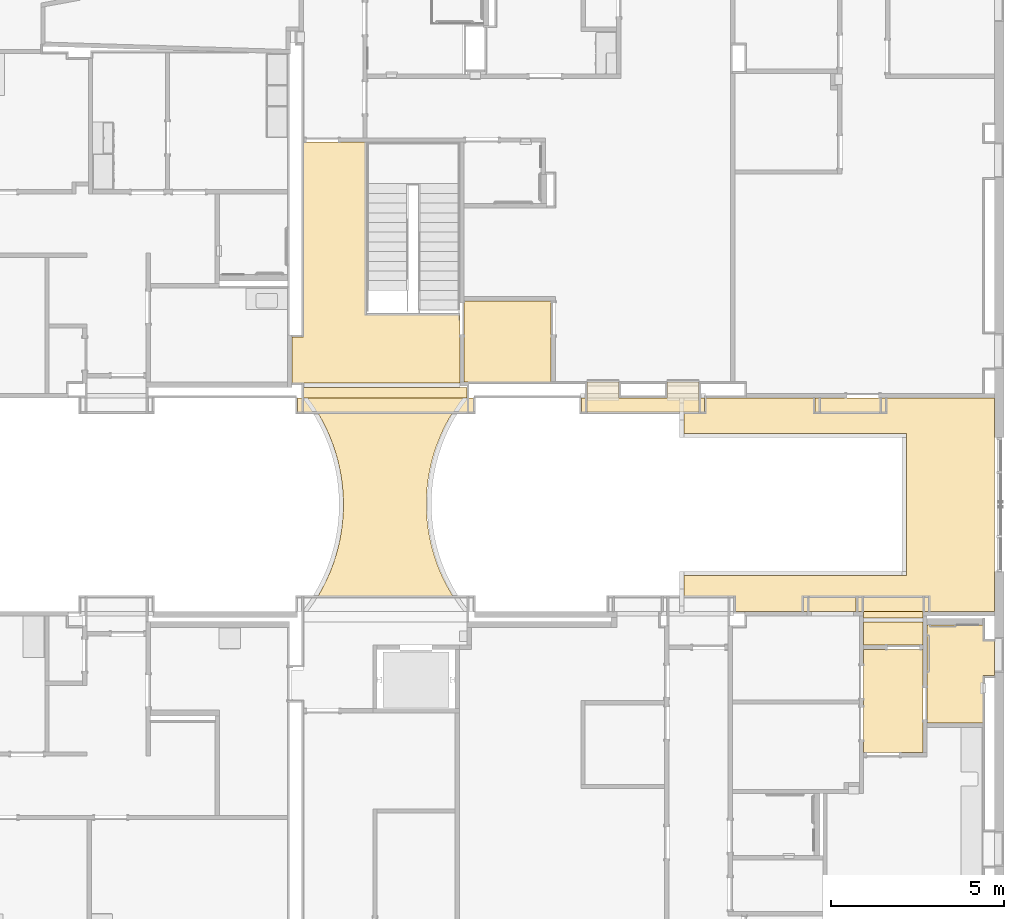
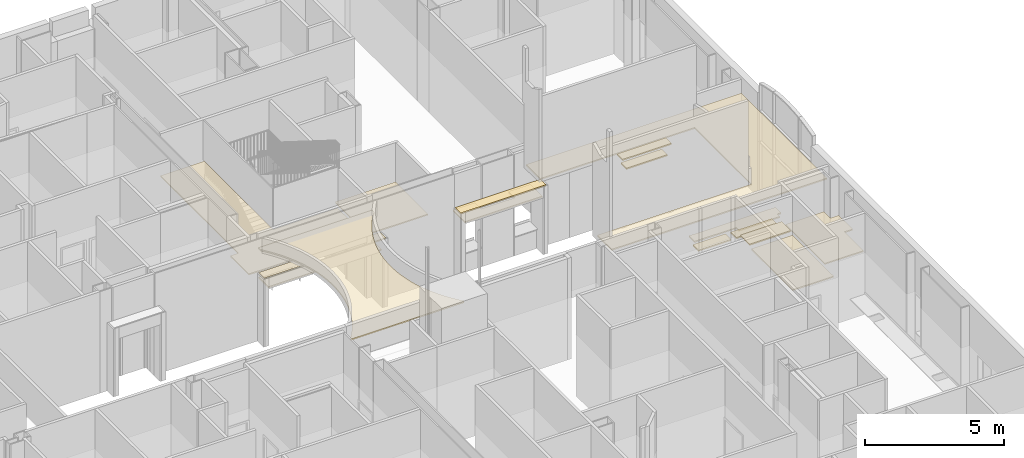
# One storey, part 53 of 82: 16 coverings.
"""IFC2X3 building model written with IfcOpenShell, lengths in metres."""

import ifcopenshell
import ifcopenshell.guid

model = None  # the IFC model being written
_history = None  # IfcOwnerHistory: only IFC2X3 demands one
_inside = {}  # id of a spatial element -> (the spatial element, [elements in it])
_under = {}  # id of a project, library or spatial element -> (it, [spatial elements below it])
_declared = {}  # id of a project -> (the project, [libraries it declares])
_typed = {}  # id of a type object -> (the type object, [elements of that type])
_made_of = {}  # id of a material, layer set ... -> (it, [elements and type objects made of it])


def new_model(schema):
    """Start an empty IFC model of exactly this schema.

    Asked for "IFC4X3", IfcOpenShell would pick the latest addendum, in which some entities
    have other attributes; the version numbers below select the first issue.
    IFC2X3 requires an IfcOwnerHistory on every rooted entity: one is made here for all.
    """
    global model, _history
    if schema == "IFC4X3":
        model = ifcopenshell.file(schema_version=(4, 3, 0, 0))
    else:
        model = ifcopenshell.file(schema=schema)
    _inside.clear()
    _under.clear()
    _declared.clear()
    _typed.clear()
    _made_of.clear()
    _history = None
    if model.schema == "IFC2X3":
        org = make("IfcOrganization", Name="unknown")
        user = make(
            "IfcPersonAndOrganization",
            ThePerson=make("IfcPerson", FamilyName="unknown"),
            TheOrganization=org,
        )
        app = make(
            "IfcApplication",
            ApplicationDeveloper=org,
            Version="unknown",
            ApplicationFullName="unknown",
            ApplicationIdentifier="unknown",
        )
        _history = make(
            "IfcOwnerHistory",
            OwningUser=user,
            OwningApplication=app,
            ChangeAction="ADDED",
            CreationDate=0,
        )
    return model


def make(cls, **values):
    """One entity of the class cls with the attributes given. An attribute that is None is left unset."""
    return model.create_entity(
        cls, **{name: value for name, value in values.items() if value is not None}
    )


def entity(cls, *values):
    """Any entity or typed value of the class cls, its attributes in the order of the schema. None: left unset."""
    e = model.create_entity(cls)
    for i, value in enumerate(values):
        if value is not None:
            e[i] = value
    return e


def rooted(cls, **values):
    """An entity with a GlobalId (a new one), such as an element, a storey or a relation."""
    return make(cls, GlobalId=ifcopenshell.guid.new(), OwnerHistory=_history, **values)


def si_unit(unit_type, name, prefix=None):
    """IfcSIUnit, for example si_unit("LENGTHUNIT", "METRE", prefix="MILLI")."""
    return make("IfcSIUnit", UnitType=unit_type, Prefix=prefix, Name=name)


def converted_unit(unit_type, name, factor, base, dimensions=None, offset=None):
    """IfcConversionBasedUnit, such as the inch: factor (a typed value) times the base unit."""
    return make(
        "IfcConversionBasedUnit"
        if offset is None
        else "IfcConversionBasedUnitWithOffset",
        ConversionOffset=offset,
        Dimensions=None
        if dimensions is None
        else entity("IfcDimensionalExponents", *dimensions),
        UnitType=unit_type,
        Name=name,
        ConversionFactor=make(
            "IfcMeasureWithUnit", ValueComponent=factor, UnitComponent=base
        ),
    )


def assignment(units):
    """IfcUnitAssignment: the units of a project."""
    return None if units is None else make("IfcUnitAssignment", Units=units)


def point(xyz):
    """IfcCartesianPoint."""
    return None if xyz is None else make("IfcCartesianPoint", Coordinates=xyz)


def direction(xyz):
    """IfcDirection."""
    return None if xyz is None else make("IfcDirection", DirectionRatios=xyz)


def frame(location, z_axis=None, x_axis=None):
    """IfcAxis2Placement3D, a coordinate frame: its origin and axes. An axis left out is left unset."""
    return make(
        "IfcAxis2Placement3D",
        Location=point(location),
        Axis=direction(z_axis),
        RefDirection=direction(x_axis),
    )


def origin():
    """The frame at (0, 0, 0) with its axes left unset."""
    return frame((0.0, 0.0, 0.0))


def place(relative_to, where):
    """IfcLocalPlacement: puts the frame where relative to a parent placement (None: the world)."""
    return make(
        "IfcLocalPlacement", PlacementRelTo=relative_to, RelativePlacement=where
    )


def context(
    kind, dimensions, precision=None, world=None, true_north=None, identifier=None
):
    """IfcGeometricRepresentationContext, for example the 3D "Model" context."""
    return make(
        "IfcGeometricRepresentationContext",
        ContextIdentifier=identifier,
        ContextType=kind,
        CoordinateSpaceDimension=dimensions,
        Precision=precision,
        WorldCoordinateSystem=world,
        TrueNorth=true_north,
    )


def project(units=None, contexts=None):
    """IfcProject with its units and contexts."""
    return rooted(
        "IfcProject",
        Name="project",
        RepresentationContexts=contexts,
        UnitsInContext=assignment(units),
    )


def spatial(cls, under=None, at=None, **own):
    """A site, building, storey or space (cls), placed at a placement, below another one or the project."""
    s = rooted(cls, ObjectPlacement=at, **own)
    if under is not None:
        _under.setdefault(under.id(), (under, []))[1].append(s)
    return s


def faces_of(points, faces, orient=None, outer=None):
    """IfcFace entities. A face is a list of loops; a loop is a list of indices into points, from 0.

    orient and outer hold one flag for each loop. By default every Orientation is true, the
    first loop of a face is its IfcFaceOuterBound and the others are IfcFaceBound.
    """
    made = []
    for i, loops in enumerate(faces):
        bounds = []
        for j, loop in enumerate(loops):
            is_outer = j == 0 if outer is None else outer[i][j]
            bounds.append(
                make(
                    "IfcFaceOuterBound" if is_outer else "IfcFaceBound",
                    Bound=make("IfcPolyLoop", Polygon=[points[k] for k in loop]),
                    Orientation=True if orient is None else orient[i][j],
                )
            )
        made.append(make("IfcFace", Bounds=bounds))
    return made


def face_set(faces, orient=None, outer=None):
    """The faces of one IfcConnectedFaceSet. surface_model builds it on its shared points."""
    return ("IfcConnectedFaceSet", faces, orient, outer)


def surface_model(cls, points, shells):
    """IfcFaceBasedSurfaceModel or IfcShellBasedSurfaceModel (cls): surfaces that need not close."""
    shared = [point(p) for p in points]
    made = [make(c, CfsFaces=faces_of(shared, fs, o, b)) for c, fs, o, b in shells]
    if cls == "IfcFaceBasedSurfaceModel":
        return make(cls, FbsmFaces=made)
    return make(cls, SbsmBoundary=made)


def shape(context_of_items, identifier, shape_type, items):
    """IfcShapeRepresentation: the items that make up one representation, for example the "Body"."""
    return make(
        "IfcShapeRepresentation",
        ContextOfItems=context_of_items,
        RepresentationIdentifier=identifier,
        RepresentationType=shape_type,
        Items=items,
    )


def material(Name=None, Category=None):
    """IfcMaterial."""
    return make("IfcMaterial", Name=Name, Category=Category)


def layer(
    of_material, thickness, ventilated=None, Name=None, Category=None, Priority=None
):
    """IfcMaterialLayer: one layer of a wall or slab, of a material (None: an air gap)."""
    return make(
        "IfcMaterialLayer",
        Material=of_material,
        LayerThickness=thickness,
        IsVentilated=ventilated,
        Name=Name,
        Category=Category,
        Priority=Priority,
    )


def layer_set(layers, Name=None):
    """IfcMaterialLayerSet."""
    return make("IfcMaterialLayerSet", MaterialLayers=layers, LayerSetName=Name)


def layer_usage(for_layer_set, set_direction, sense, offset, extent=None):
    """IfcMaterialLayerSetUsage: how a layer set lies in its element."""
    return make(
        "IfcMaterialLayerSetUsage",
        ForLayerSet=for_layer_set,
        LayerSetDirection=set_direction,
        DirectionSense=sense,
        OffsetFromReferenceLine=offset,
        ReferenceExtent=extent,
    )


def made_of(thing, what):
    """Note that an element or type object is made of a material, layer set ...; save() writes the relation."""
    if what is not None:
        _made_of.setdefault(what.id(), (what, []))[1].append(thing)
    return thing


def element(
    cls,
    number,
    at=None,
    inside=None,
    cuts=None,
    type_object=None,
    material=None,
    context=None,
    identifier="Body",
    shape_type=None,
    held_by="IfcProductDefinitionShape",
    body=None,
    shapes=None,
    **own,
):
    """One element of the class cls, such as IfcWall. Its Tag is "e" and its number.

    at: its placement. inside: the storey or other place that contains it. cuts: it is an
    opening in that element (IfcRelVoidsElement). A single representation is given by context,
    identifier, shape_type and body (its items); several are given by shapes. held_by: the class
    of the entity that holds the representations. save() writes the other relations.
    """
    e = rooted(cls, Tag="e%d" % number, ObjectPlacement=at, **own)
    if body is not None:
        shapes = [shape(context, identifier, shape_type, body)]
    if shapes is not None:
        e.Representation = make(held_by, Representations=shapes)
    if inside is not None:
        _inside.setdefault(inside.id(), (inside, []))[1].append(e)
    if cuts is not None:
        rooted(
            "IfcRelVoidsElement", RelatingBuildingElement=cuts, RelatedOpeningElement=e
        )
    if type_object is not None:
        _typed.setdefault(type_object.id(), (type_object, []))[1].append(e)
    return made_of(e, material)


def aggregate(whole, parts):
    """IfcRelAggregates: a whole, such as a stair, and the parts it consists of."""
    return rooted("IfcRelAggregates", RelatingObject=whole, RelatedObjects=parts)


def save(model, path):
    """Write the relations noted so far, then the file.

    IfcRelAggregates (storeys below a building ...), IfcRelContainedInSpatialStructure (elements
    in a storey), IfcRelDefinesByType, IfcRelAssociatesMaterial and IfcRelDeclares: one each for
    every whole, place, type object, material and project.
    """
    for whole, parts in _under.values():
        aggregate(whole, parts)
    for where, things in _inside.values():
        rooted(
            "IfcRelContainedInSpatialStructure",
            RelatedElements=things,
            RelatingStructure=where,
        )
    for kind, things in _typed.values():
        rooted("IfcRelDefinesByType", RelatedObjects=things, RelatingType=kind)
    for what, things in _made_of.values():
        rooted("IfcRelAssociatesMaterial", RelatedObjects=things, RelatingMaterial=what)
    for by, libraries in _declared.values():
        rooted("IfcRelDeclares", RelatingContext=by, RelatedDefinitions=libraries)
    model.write(path)


model = new_model("IFC2X3")

# Units and contexts
model_context = context("Model", 3, precision=1e-09, world=origin())
plan_context = context("Plan", 3, precision=1e-09, world=origin())
ifc_project = project(units=[si_unit("LENGTHUNIT", "METRE"), si_unit("AREAUNIT", "SQUARE_METRE"), si_unit("VOLUMEUNIT", "CUBIC_METRE"), converted_unit("PLANEANGLEUNIT", "DEGREE", entity("IfcRatioMeasure", 0.01745329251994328), si_unit("PLANEANGLEUNIT", "RADIAN"), dimensions=[0, 0, 0, 0, 0, 0, 0]), si_unit("TIMEUNIT", "SECOND")], contexts=[model_context, plan_context])

# Site, building, storey
site_placement = place(None, origin())
site = spatial("IfcSite", under=ifc_project, at=site_placement, Name="Default", CompositionType="ELEMENT")
building_placement = place(site_placement, origin())
building = spatial("IfcBuilding", under=site, at=building_placement, CompositionType="ELEMENT")
storey_placement = place(building_placement, origin())
storey = spatial("IfcBuildingStorey", under=building, at=storey_placement, Name="First Floor", CompositionType="ELEMENT", Elevation=-3.531500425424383e-13)

# Coverings
ifc_material_1 = material(Name="Metal - Stud Layer")
ifc_layer_1 = layer(ifc_material_1, 0.045)
ifc_material_2 = material(Name="Plasterboard")
ifc_layer_2 = layer(ifc_material_2, 0.012)
ifc_layer_set_1 = layer_set([ifc_layer_1, ifc_layer_2], Name="Compound Ceiling:Gypsum Board")
ifc_layer_usage_1 = layer_usage(ifc_layer_set_1, "AXIS3", "NEGATIVE", 0.0)
covering_1_placement = place(storey_placement, origin())
element("IfcCovering", 1, at=covering_1_placement, inside=storey, material=ifc_layer_usage_1, Name="Compound Ceiling:Gypsum Board", ObjectType="Compound Ceiling:Gypsum Board", PredefinedType="CEILING", context=model_context, shape_type="SurfaceModel", body=[
    surface_model("IfcFaceBasedSurfaceModel", [(-11.6500000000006, 35.23499999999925, 2.557), (-10.7300000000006, 35.23499999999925, 2.557), (-10.7300000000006, 34.77999999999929, 2.557), (-9.34000000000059, 34.77999999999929, 2.557), (-9.340000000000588, 35.23499999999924, 2.557), (-8.420000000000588, 35.23499999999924, 2.557), (-8.420000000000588, 34.37399999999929, 2.557), (-11.6500000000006, 34.37399999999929, 2.557), (-11.6500000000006, 35.23499999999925, 2.5), (-10.7300000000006, 35.23499999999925, 2.5), (-10.7300000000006, 34.77999999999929, 2.5), (-9.34000000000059, 34.77999999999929, 2.5), (-9.340000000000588, 35.23499999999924, 2.5), (-8.420000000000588, 35.23499999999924, 2.5), (-8.420000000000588, 34.37399999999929, 2.5), (-11.6500000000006, 34.37399999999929, 2.5)], [face_set([[[0, 1, 2, 3, 4, 5, 6, 7]], [[8, 9, 10, 11, 12, 13, 14, 15]], [[7, 15, 8, 0]], [[6, 7, 15, 14]], [[5, 6, 14, 13]], [[4, 12, 13, 5]], [[3, 11, 12, 4]], [[2, 10, 11, 3]], [[1, 2, 10, 9]], [[0, 8, 9, 1]]])]),
])
covering_2_placement = place(storey_placement, origin())
element("IfcCovering", 2, at=covering_2_placement, inside=storey, material=ifc_layer_usage_1, Name="Compound Ceiling:Gypsum Board", ObjectType="Compound Ceiling:Gypsum Board", PredefinedType="CEILING", context=model_context, shape_type="SurfaceModel", body=[
    surface_model("IfcFaceBasedSurfaceModel", [(-3.669975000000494, 28.30349999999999, 2.857), (-1.959975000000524, 28.30349999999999, 2.857), (-1.959975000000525, 27.64399999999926, 2.857), (-3.669975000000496, 27.64399999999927, 2.857), (-3.669975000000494, 28.30349999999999, 2.8), (-1.959975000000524, 28.30349999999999, 2.8), (-1.959975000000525, 27.64399999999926, 2.8), (-3.669975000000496, 27.64399999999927, 2.8)], [face_set([[[0, 1, 2, 3]], [[4, 5, 6, 7]], [[3, 7, 4, 0]], [[2, 3, 7, 6]], [[1, 2, 6, 5]], [[0, 4, 5, 1]]])]),
])
covering_3_placement = place(storey_placement, origin())
element("IfcCovering", 3, at=covering_3_placement, inside=storey, material=ifc_layer_usage_1, Name="Compound Ceiling:Gypsum Board", ObjectType="Compound Ceiling:Gypsum Board", PredefinedType="CEILING", context=model_context, shape_type="SurfaceModel", body=[
    surface_model("IfcFaceBasedSurfaceModel", [(-15.10997500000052, 34.37399999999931, 2.557), (-19.8300000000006, 34.37399999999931, 2.557), (-19.8300000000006, 35.08199999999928, 2.557), (-15.10997500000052, 35.08199999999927, 2.557), (-15.10997500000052, 34.37399999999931, 2.5), (-19.8300000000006, 34.37399999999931, 2.5), (-19.8300000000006, 35.08199999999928, 2.5), (-15.32000000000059, 35.08199999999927, 2.5), (-15.10997500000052, 35.08199999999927, 2.5)], [face_set([[[0, 1, 2, 3]], [[4, 5, 6, 7, 8]], [[3, 0, 4, 8]], [[2, 6, 7, 8, 3]], [[1, 5, 6, 2]], [[0, 1, 5, 4]]])]),
])
covering_4_placement = place(storey_placement, origin())
element("IfcCovering", 4, at=covering_4_placement, inside=storey, material=ifc_layer_usage_1, Name="Compound Ceiling:Gypsum Board", ObjectType="Compound Ceiling:Gypsum Board", PredefinedType="CEILING", context=model_context, shape_type="SurfaceModel", body=[
    surface_model("IfcFaceBasedSurfaceModel", [(-4.913500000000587, 34.77999999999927, 2.557), (-3.203500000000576, 34.77999999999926, 2.557), (-3.203500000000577, 34.37399999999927, 2.557), (-4.913500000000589, 34.37399999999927, 2.557), (-4.913500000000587, 34.77999999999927, 2.5), (-3.203500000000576, 34.77999999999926, 2.5), (-3.203500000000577, 34.37399999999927, 2.5), (-4.913500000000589, 34.37399999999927, 2.5)], [face_set([[[0, 1, 2, 3]], [[4, 5, 6, 7]], [[3, 7, 4, 0]], [[2, 3, 7, 6]], [[1, 2, 6, 5]], [[0, 4, 5, 1]]])]),
])
ifc_material_3 = material(Name="Default")
ifc_layer_3 = layer(ifc_material_3, 0.03599999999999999)
ifc_material_4 = material(Name="Ceiling Tile 600 x 600")
ifc_layer_4 = layer(ifc_material_4, 0.016)
ifc_layer_set_2 = layer_set([ifc_layer_3, ifc_layer_4], Name="Compound Ceiling:ACT 600 x 600mm Grid")
ifc_layer_usage_2 = layer_usage(ifc_layer_set_2, "AXIS3", "NEGATIVE", 0.0)
covering_5_placement = place(storey_placement, origin())
element("IfcCovering", 5, at=covering_5_placement, inside=storey, material=ifc_layer_usage_2, Name="Compound Ceiling:ACT 600 x 600mm Grid", ObjectType="Compound Ceiling:ACT 600 x 600mm Grid", PredefinedType="CEILING", context=model_context, shape_type="SurfaceModel", body=[
    surface_model("IfcFaceBasedSurfaceModel", [(-20.16600000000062, 35.20599999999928, 2.732), (-20.16600000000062, 36.53499999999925, 2.732), (-19.83000000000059, 36.53499999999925, 2.732), (-19.83000000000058, 42.15600069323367, 2.732), (-18.00500000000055, 42.15600069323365, 2.732), (-18.00500000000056, 37.19487666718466, 2.732), (-15.32000000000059, 37.19487666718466, 2.732), (-15.32000000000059, 35.20599999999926, 2.732), (-19.85700000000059, 35.20599999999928, 2.732), (-20.16600000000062, 35.20599999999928, 2.68), (-20.16600000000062, 36.53499999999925, 2.68), (-19.83000000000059, 36.53499999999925, 2.68), (-19.83000000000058, 42.15600069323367, 2.68), (-18.00500000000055, 42.15600069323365, 2.68), (-18.00500000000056, 37.19487666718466, 2.68), (-15.32000000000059, 37.19487666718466, 2.68), (-15.32000000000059, 35.20599999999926, 2.68), (-19.85700000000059, 35.20599999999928, 2.68)], [face_set([[[0, 1, 2, 3, 4, 5, 6, 7, 8]], [[9, 10, 11, 12, 13, 14, 15, 16, 17]], [[8, 0, 9, 17]], [[7, 8, 17, 16]], [[6, 7, 16, 15]], [[3, 12, 13, 4]], [[2, 11, 12, 3]], [[1, 10, 11, 2]], [[0, 9, 10, 1]], [[5, 14, 15, 6]], [[4, 5, 14, 13]]])]),
])
covering_6_placement = place(storey_placement, origin())
element("IfcCovering", 6, at=covering_6_placement, inside=storey, material=ifc_layer_usage_1, Name="Compound Ceiling:Gypsum Board", ObjectType="Compound Ceiling:Gypsum Board", PredefinedType="CEILING", context=model_context, shape_type="SurfaceModel", body=[
    surface_model("IfcFaceBasedSurfaceModel", [(-15.1099750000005, 35.07199999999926, 3.857), (-15.10997500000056, 34.92990326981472, 3.857), (-15.26607528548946, 34.73497943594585, 3.857), (-15.41223467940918, 34.53249479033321, 3.857), (-15.54808759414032, 34.32295580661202, 3.857), (-15.67329422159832, 34.10688660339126, 3.857), (-15.78754138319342, 33.884827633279, 3.857), (-15.89054331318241, 33.65733433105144, 3.857), (-15.98204237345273, 33.42497572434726, 3.857), (-16.06180969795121, 33.18833301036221, 3.857), (-16.12964576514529, 32.94799810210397, 3.857), (-16.18538089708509, 32.70457214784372, 3.857), (-16.22887568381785, 32.45866402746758, 3.857), (-16.26002133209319, 32.21088882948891, 3.857), (-16.278739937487, 31.96186631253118, 3.857), (-16.28498467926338, 31.71221935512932, 3.857), (-16.278739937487, 31.46257239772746, 3.857), (-16.26002133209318, 31.21354988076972, 3.857), (-16.22887568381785, 30.96577468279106, 3.857), (-16.18538089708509, 30.71986656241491, 3.857), (-16.12964576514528, 30.47644060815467, 3.857), (-16.0618096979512, 30.23610569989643, 3.857), (-15.98204237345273, 29.99946298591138, 3.857), (-15.8905433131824, 29.7671043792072, 3.857), (-15.78754138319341, 29.53961107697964, 3.857), (-15.67329422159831, 29.31755210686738, 3.857), (-15.54808759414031, 29.10148290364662, 3.857), (-15.41223467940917, 28.89194391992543, 3.857), (-15.26607528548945, 28.68945927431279, 3.857), (-15.10997500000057, 28.49453544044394, 3.857), (-15.10997500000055, 28.42750000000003, 3.857), (-19.8300000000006, 28.42750000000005, 3.857), (-19.83000000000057, 28.46440281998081, 3.857), (-19.67682203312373, 28.66193136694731, 3.857), (-19.53347420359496, 28.86670542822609, 3.857), (-19.40029865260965, 29.07823625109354, 3.857), (-19.27761324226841, 29.29601895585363, 3.857), (-19.1657107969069, 29.51953374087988, 3.857), (-19.06485840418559, 29.74824712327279, 3.857), (-18.97529677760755, 29.98161321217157, 3.857), (-18.89723968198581, 30.21907501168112, 3.857), (-18.83087342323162, 30.46006575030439, 3.857), (-18.77635640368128, 30.704010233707, 3.857), (-18.73381874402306, 30.95032621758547, 3.857), (-18.70336197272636, 31.19842579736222, 3.857), (-18.68505878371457, 31.44771681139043, 3.857), (-18.67895286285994, 31.69760425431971, 3.857), (-18.68505878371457, 31.947491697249, 3.857), (-18.70336197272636, 32.19678271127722, 3.857), (-18.73381874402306, 32.44488229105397, 3.857), (-18.77635640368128, 32.69119827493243, 3.857), (-18.83087342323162, 32.93514275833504, 3.857), (-18.89723968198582, 33.17613349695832, 3.857), (-18.97529677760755, 33.41359529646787, 3.857), (-19.06485840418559, 33.64696138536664, 3.857), (-19.16571079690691, 33.87567476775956, 3.857), (-19.27761324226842, 34.0991895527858, 3.857), (-19.40029865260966, 34.3169722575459, 3.857), (-19.53347420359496, 34.52850308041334, 3.857), (-19.67682203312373, 34.73327714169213, 3.857), (-19.83000000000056, 34.93080568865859, 3.857), (-19.83000000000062, 35.07199999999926, 3.857), (-15.1099750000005, 35.07199999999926, 3.8), (-15.1099750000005, 34.92990326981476, 3.8), (-15.26607528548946, 34.73497943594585, 3.8), (-15.41223467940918, 34.53249479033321, 3.8), (-15.54808759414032, 34.32295580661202, 3.8), (-15.67329422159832, 34.10688660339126, 3.8), (-15.78754138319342, 33.884827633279, 3.8), (-15.89054331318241, 33.65733433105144, 3.8), (-15.98204237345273, 33.42497572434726, 3.8), (-16.06180969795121, 33.18833301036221, 3.8), (-16.12964576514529, 32.94799810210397, 3.8), (-16.18538089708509, 32.70457214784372, 3.8), (-16.22887568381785, 32.45866402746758, 3.8), (-16.26002133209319, 32.21088882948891, 3.8), (-16.278739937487, 31.96186631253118, 3.8), (-16.28498467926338, 31.71221935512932, 3.8), (-16.278739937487, 31.46257239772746, 3.8), (-16.26002133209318, 31.21354988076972, 3.8), (-16.22887568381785, 30.96577468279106, 3.8), (-16.18538089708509, 30.71986656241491, 3.8), (-16.12964576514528, 30.47644060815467, 3.8), (-16.0618096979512, 30.23610569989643, 3.8), (-15.98204237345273, 29.99946298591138, 3.8), (-15.8905433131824, 29.7671043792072, 3.8), (-15.78754138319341, 29.53961107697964, 3.8), (-15.67329422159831, 29.31755210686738, 3.8), (-15.54808759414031, 29.10148290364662, 3.8), (-15.41223467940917, 28.89194391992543, 3.8), (-15.26607528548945, 28.68945927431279, 3.8), (-15.10997500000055, 28.49453544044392, 3.8), (-15.10997500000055, 28.42750000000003, 3.8), (-19.8300000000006, 28.42750000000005, 3.8), (-19.8300000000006, 28.46440281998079, 3.8), (-19.67682203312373, 28.66193136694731, 3.8), (-19.53347420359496, 28.86670542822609, 3.8), (-19.40029865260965, 29.07823625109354, 3.8), (-19.27761324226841, 29.29601895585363, 3.8), (-19.1657107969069, 29.51953374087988, 3.8), (-19.06485840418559, 29.74824712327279, 3.8), (-18.97529677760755, 29.98161321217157, 3.8), (-18.89723968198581, 30.21907501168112, 3.8), (-18.83087342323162, 30.46006575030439, 3.8), (-18.77635640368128, 30.704010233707, 3.8), (-18.73381874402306, 30.95032621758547, 3.8), (-18.70336197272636, 31.19842579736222, 3.8), (-18.68505878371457, 31.44771681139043, 3.8), (-18.67895286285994, 31.69760425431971, 3.8), (-18.68505878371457, 31.947491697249, 3.8), (-18.70336197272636, 32.19678271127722, 3.8), (-18.73381874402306, 32.44488229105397, 3.8), (-18.77635640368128, 32.69119827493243, 3.8), (-18.83087342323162, 32.93514275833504, 3.8), (-18.89723968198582, 33.17613349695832, 3.8), (-18.97529677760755, 33.41359529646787, 3.8), (-19.06485840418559, 33.64696138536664, 3.8), (-19.16571079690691, 33.87567476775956, 3.8), (-19.27761324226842, 34.0991895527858, 3.8), (-19.40029865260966, 34.3169722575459, 3.8), (-19.53347420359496, 34.52850308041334, 3.8), (-19.67682203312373, 34.73327714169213, 3.8), (-19.83000000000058, 34.93080568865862, 3.8), (-19.83000000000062, 35.07199999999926, 3.8)], [face_set([[[0, 1, 2, 3, 4, 5, 6, 7, 8, 9, 10, 11, 12, 13, 14, 15, 16, 17, 18, 19, 20, 21, 22, 23, 24, 25, 26, 27, 28, 29, 30, 31, 32, 33, 34, 35, 36, 37, 38, 39, 40, 41, 42, 43, 44, 45, 46, 47, 48, 49, 50, 51, 52, 53, 54, 55, 56, 57, 58, 59, 60, 61]], [[62, 63, 64, 65, 66, 67, 68, 69, 70, 71, 72, 73, 74, 75, 76, 77, 78, 79, 80, 81, 82, 83, 84, 85, 86, 87, 88, 89, 90, 91, 92, 93, 94, 95, 96, 97, 98, 99, 100, 101, 102, 103, 104, 105, 106, 107, 108, 109, 110, 111, 112, 113, 114, 115, 116, 117, 118, 119, 120, 121, 122, 123]], [[61, 123, 62, 0]], [[60, 122, 123, 61]], [[118, 56, 57, 119]], [[117, 55, 56, 118]], [[122, 60, 59, 121]], [[120, 58, 59, 121]], [[119, 57, 58, 120]], [[116, 54, 55, 117]], [[111, 49, 50, 112]], [[110, 48, 49, 111]], [[114, 52, 53, 115]], [[113, 51, 52, 114]], [[112, 50, 51, 113]], [[115, 53, 54, 116]], [[109, 47, 48, 110]], [[47, 109, 108, 46]], [[103, 41, 42, 104]], [[102, 40, 41, 103]], [[106, 44, 45, 107]], [[105, 43, 44, 106]], [[104, 42, 43, 105]], [[101, 39, 40, 102]], [[96, 34, 35, 97]], [[95, 33, 34, 96]], [[99, 37, 38, 100]], [[98, 36, 37, 99]], [[97, 35, 36, 98]], [[100, 38, 39, 101]], [[95, 33, 32, 94]], [[107, 45, 46, 108]], [[31, 93, 94, 32]], [[30, 31, 93, 92]], [[29, 30, 92, 91]], [[87, 25, 26, 88]], [[86, 24, 25, 87]], [[91, 29, 28, 90]], [[90, 28, 27, 89]], [[88, 26, 27, 89]], [[85, 23, 24, 86]], [[80, 18, 19, 81]], [[79, 17, 18, 80]], [[83, 21, 22, 84]], [[82, 20, 21, 83]], [[81, 19, 20, 82]], [[84, 22, 23, 85]], [[78, 16, 17, 79]], [[16, 78, 77, 15]], [[72, 10, 11, 73]], [[71, 9, 10, 72]], [[75, 13, 14, 76]], [[74, 12, 13, 75]], [[73, 11, 12, 74]], [[70, 8, 9, 71]], [[65, 3, 4, 66]], [[64, 2, 3, 65]], [[68, 6, 7, 69]], [[67, 5, 6, 68]], [[66, 4, 5, 67]], [[69, 7, 8, 70]], [[64, 2, 1, 63]], [[76, 14, 15, 77]], [[0, 1, 63, 62]]])]),
])
covering_7_placement = place(storey_placement, origin())
element("IfcCovering", 7, at=covering_7_placement, inside=storey, material=ifc_layer_usage_1, Name="Compound Ceiling:Gypsum Board", ObjectType="Compound Ceiling:Gypsum Board", PredefinedType="CEILING", context=model_context, shape_type="SurfaceModel", body=[
    surface_model("IfcFaceBasedSurfaceModel", [(-5.243722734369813, 28.60999999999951, 2.557), (-5.243722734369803, 29.01599999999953, 2.557), (-3.884975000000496, 29.01599999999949, 2.557), (-3.884975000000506, 28.60999999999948, 2.557), (-5.243722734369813, 28.60999999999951, 2.5), (-5.243722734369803, 29.01599999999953, 2.5), (-3.884975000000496, 29.01599999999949, 2.5), (-3.884975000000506, 28.60999999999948, 2.5)], [face_set([[[0, 1, 2, 3]], [[4, 5, 6, 7]], [[0, 4, 5, 1]], [[1, 5, 6, 2]], [[2, 3, 7, 6]], [[3, 0, 4, 7]]])]),
])
covering_8_placement = place(storey_placement, origin())
element("IfcCovering", 8, at=covering_8_placement, inside=storey, material=ifc_layer_usage_1, Name="Compound Ceiling:Gypsum Board", ObjectType="Compound Ceiling:Gypsum Board", PredefinedType="CEILING", context=model_context, shape_type="SurfaceModel", body=[
    surface_model("IfcFaceBasedSurfaceModel", [(-8.857726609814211, 33.75399999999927, 3.857), (-2.436000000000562, 33.75399999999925, 3.857), (-2.436000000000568, 29.64599999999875, 3.857), (-8.857726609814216, 29.64599999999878, 3.857), (-8.857726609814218, 28.60999999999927, 3.857), (0.1129999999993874, 28.60999999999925, 3.857), (0.1129999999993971, 34.77999999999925, 3.857), (-8.85772660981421, 34.77999999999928, 3.857), (-8.857726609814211, 33.75399999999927, 3.8), (-8.85772660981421, 34.77999999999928, 3.8), (0.1129999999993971, 34.77999999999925, 3.8), (0.1129999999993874, 28.60999999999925, 3.8), (-8.857726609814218, 28.60999999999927, 3.8), (-8.857726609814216, 29.64599999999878, 3.8), (-2.436000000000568, 29.64599999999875, 3.8), (-2.436000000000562, 33.75399999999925, 3.8)], [face_set([[[0, 1, 2, 3, 4, 5, 6, 7]], [[8, 9, 10, 11, 12, 13, 14, 15]], [[0, 8, 9, 7]], [[1, 0, 8, 15]], [[2, 14, 15, 1]], [[3, 13, 14, 2]], [[4, 12, 13, 3]], [[5, 4, 12, 11]], [[6, 5, 11, 10]], [[7, 9, 10, 6]]])]),
])
covering_9_placement = place(storey_placement, origin())
element("IfcCovering", 9, at=covering_9_placement, inside=storey, material=ifc_layer_usage_1, Name="Compound Ceiling:Gypsum Board", ObjectType="Compound Ceiling:Gypsum Board", PredefinedType="CEILING", context=model_context, shape_type="SurfaceModel", body=[
    surface_model("IfcFaceBasedSurfaceModel", [(-3.669975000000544, 28.60999999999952, 2.557), (-3.669975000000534, 29.01599999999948, 2.557), (-1.959975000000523, 29.01599999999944, 2.557), (-1.959975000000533, 28.60999999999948, 2.557), (-3.669975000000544, 28.60999999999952, 2.5), (-3.669975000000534, 29.01599999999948, 2.5), (-1.959975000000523, 29.01599999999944, 2.5), (-1.959975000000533, 28.60999999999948, 2.5)], [face_set([[[0, 1, 2, 3]], [[4, 5, 6, 7]], [[0, 4, 5, 1]], [[1, 5, 6, 2]], [[2, 3, 7, 6]], [[3, 0, 4, 7]]])]),
])
covering_10_placement = place(storey_placement, origin())
element("IfcCovering", 10, at=covering_10_placement, inside=storey, material=ifc_layer_usage_1, Name="Compound Ceiling:Gypsum Board", ObjectType="Compound Ceiling:Gypsum Board", PredefinedType="CEILING", context=model_context, shape_type="SurfaceModel", body=[
    surface_model("IfcFaceBasedSurfaceModel", [(-14.9289750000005, 34.37399999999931, 3.0), (-20.00600000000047, 34.37399999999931, 3.0), (-20.00600000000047, 34.77999999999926, 3.0), (-14.92897500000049, 34.77999999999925, 3.0), (-14.9289750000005, 34.37399999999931, 2.943), (-20.00600000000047, 34.37399999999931, 2.943), (-20.00600000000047, 34.77999999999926, 2.943), (-14.92897500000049, 34.77999999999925, 2.943)], [face_set([[[0, 1, 2, 3]], [[4, 5, 6, 7]], [[3, 0, 4, 7]], [[2, 6, 7, 3]], [[1, 5, 6, 2]], [[0, 1, 5, 4]]])]),
])
covering_11_placement = place(storey_placement, origin())
element("IfcCovering", 11, at=covering_11_placement, inside=storey, material=ifc_layer_usage_1, Name="Compound Ceiling:Gypsum Board", ObjectType="Compound Ceiling:Gypsum Board", PredefinedType="CEILING", context=model_context, shape_type="SurfaceModel", body=[
    surface_model("IfcFaceBasedSurfaceModel", [(-5.074500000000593, 34.77999999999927, 3.0), (-3.042500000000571, 34.77999999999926, 3.0), (-3.042500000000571, 34.37399999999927, 3.0), (-5.074500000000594, 34.37399999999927, 3.0), (-5.074500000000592, 34.77999999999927, 2.943), (-3.042500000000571, 34.77999999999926, 2.943), (-3.042500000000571, 34.37399999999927, 2.943), (-5.074500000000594, 34.37399999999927, 2.943)], [face_set([[[0, 1, 2, 3]], [[4, 5, 6, 7]], [[3, 7, 4, 0]], [[2, 3, 7, 6]], [[1, 2, 6, 5]], [[0, 4, 5, 1]]])]),
])
covering_12_placement = place(storey_placement, origin())
element("IfcCovering", 12, at=covering_12_placement, inside=storey, material=ifc_layer_usage_1, Name="Compound Ceiling:Gypsum Board", ObjectType="Compound Ceiling:Gypsum Board", PredefinedType="CEILING", context=model_context, shape_type="SurfaceModel", body=[
    surface_model("IfcFaceBasedSurfaceModel", [(-5.404722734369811, 28.60999999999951, 3.0), (-3.669975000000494, 28.60999999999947, 3.0), (-3.669975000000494, 28.42749999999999, 3.0), (-1.959975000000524, 28.42749999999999, 3.0), (-1.959975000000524, 28.60999999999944, 3.0), (-1.798975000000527, 28.60999999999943, 3.0), (-1.798975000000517, 29.01599999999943, 3.0), (-5.404722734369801, 29.01599999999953, 3.0), (-5.404722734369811, 28.60999999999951, 2.943), (-5.404722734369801, 29.01599999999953, 2.943), (-1.798975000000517, 29.01599999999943, 2.943), (-1.798975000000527, 28.60999999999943, 2.943), (-1.959975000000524, 28.60999999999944, 2.943), (-1.959975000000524, 28.42749999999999, 2.943), (-3.669975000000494, 28.42749999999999, 2.943), (-3.669975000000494, 28.60999999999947, 2.943)], [face_set([[[0, 1, 2, 3, 4, 5, 6, 7]], [[8, 9, 10, 11, 12, 13, 14, 15]], [[0, 8, 9, 7]], [[7, 9, 10, 6]], [[6, 5, 11, 10]], [[1, 0, 8, 15]], [[2, 14, 15, 1]], [[3, 2, 14, 13]], [[4, 3, 13, 12]], [[5, 4, 12, 11]]])]),
])
covering_13_placement = place(storey_placement, origin())
element("IfcCovering", 13, at=covering_13_placement, inside=storey, material=ifc_layer_usage_2, Name="Compound Ceiling:ACT 600 x 600mm Grid", ObjectType="Compound Ceiling:ACT 600 x 600mm Grid", PredefinedType="CEILING", context=model_context, shape_type="SurfaceModel", body=[
    surface_model("IfcFaceBasedSurfaceModel", [(-15.04797500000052, 35.23999999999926, 2.732), (-15.19600000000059, 35.23999999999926, 2.732), (-15.19600000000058, 37.57599999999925, 2.732), (-12.68400000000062, 37.57599999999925, 2.732), (-12.68400000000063, 35.23999999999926, 2.732), (-15.04797500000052, 35.23999999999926, 2.68), (-15.19600000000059, 35.23999999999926, 2.68), (-15.19600000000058, 37.57599999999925, 2.68), (-12.68400000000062, 37.57599999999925, 2.68), (-12.68400000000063, 35.23999999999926, 2.68)], [face_set([[[0, 1, 2, 3, 4]], [[5, 6, 7, 8, 9]], [[3, 4, 9, 8]], [[2, 7, 8, 3]], [[1, 6, 7, 2]], [[0, 1, 6, 5]], [[4, 0, 5, 9]]])]),
])
covering_14_placement = place(storey_placement, origin())
element("IfcCovering", 14, at=covering_14_placement, inside=storey, material=ifc_layer_usage_2, Name="Compound Ceiling:ACT 600 x 600mm Grid", ObjectType="Compound Ceiling:ACT 600 x 600mm Grid", PredefinedType="CEILING", context=model_context, shape_type="SurfaceModel", body=[
    surface_model("IfcFaceBasedSurfaceModel", [(-0.2300000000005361, 28.22999999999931, 2.732), (-0.2300000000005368, 27.75999999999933, 2.732), (0.1129999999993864, 27.75999999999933, 2.732), (0.1129999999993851, 26.75999999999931, 2.732), (-0.2300000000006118, 26.75999999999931, 2.732), (-0.230000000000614, 25.38999999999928, 2.732), (-1.835975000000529, 25.38999999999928, 2.732), (-1.835975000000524, 28.22999999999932, 2.732), (-0.2300000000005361, 28.22999999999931, 2.68), (-1.835975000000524, 28.22999999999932, 2.68), (-1.835975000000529, 25.38999999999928, 2.68), (-0.230000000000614, 25.38999999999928, 2.68), (-0.2300000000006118, 26.75999999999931, 2.68), (0.1129999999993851, 26.75999999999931, 2.68), (0.1129999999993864, 27.75999999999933, 2.68), (-0.2300000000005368, 27.75999999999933, 2.68)], [face_set([[[0, 1, 2, 3, 4, 5, 6, 7]], [[8, 9, 10, 11, 12, 13, 14, 15]], [[7, 9, 8, 0]], [[6, 10, 9, 7]], [[5, 6, 10, 11]], [[4, 5, 11, 12]], [[3, 4, 12, 13]], [[2, 3, 13, 14]], [[1, 15, 14, 2]], [[0, 1, 15, 8]]])]),
])
covering_15_placement = place(storey_placement, origin())
element("IfcCovering", 15, at=covering_15_placement, inside=storey, material=ifc_layer_usage_1, Name="Compound Ceiling:Gypsum Board", ObjectType="Compound Ceiling:Gypsum Board", PredefinedType="CEILING", context=model_context, shape_type="SurfaceModel", body=[
    surface_model("IfcFaceBasedSurfaceModel", [(-11.81100000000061, 34.77999999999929, 3.0), (-8.259000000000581, 34.77999999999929, 3.0), (-8.259000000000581, 34.37399999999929, 3.0), (-11.81100000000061, 34.37399999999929, 3.0), (-11.81100000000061, 34.77999999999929, 2.943), (-8.259000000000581, 34.77999999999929, 2.943), (-8.259000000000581, 34.37399999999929, 2.943), (-11.81100000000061, 34.37399999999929, 2.943)], [face_set([[[0, 1, 2, 3]], [[4, 5, 6, 7]], [[3, 7, 4, 0]], [[2, 3, 7, 6]], [[1, 2, 6, 5]], [[0, 4, 5, 1]]])]),
])
covering_16_placement = place(storey_placement, origin())
element("IfcCovering", 16, at=covering_16_placement, inside=storey, material=ifc_layer_usage_2, Name="Compound Ceiling:ACT 600 x 600mm Grid", ObjectType="Compound Ceiling:ACT 600 x 600mm Grid", PredefinedType="CEILING", context=model_context, shape_type="SurfaceModel", body=[
    surface_model("IfcFaceBasedSurfaceModel", [(-1.959975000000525, 27.51999999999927, 2.732), (-1.95997500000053, 24.53999999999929, 2.732), (-3.669975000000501, 24.5399999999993, 2.732), (-3.669975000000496, 27.51999999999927, 2.732), (-1.959975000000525, 27.51999999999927, 2.68), (-1.95997500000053, 24.53999999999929, 2.68), (-3.669975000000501, 24.5399999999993, 2.68), (-3.669975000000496, 27.51999999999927, 2.68)], [face_set([[[0, 1, 2, 3]], [[4, 5, 6, 7]], [[3, 7, 4, 0]], [[2, 6, 7, 3]], [[1, 2, 6, 5]], [[0, 1, 5, 4]]])]),
])

save(model, "model.ifc")
